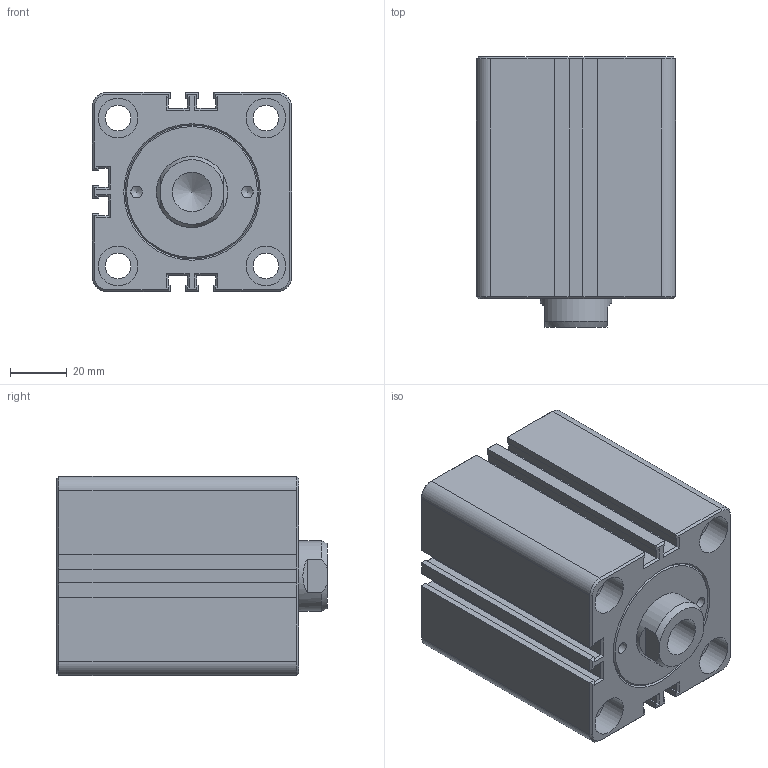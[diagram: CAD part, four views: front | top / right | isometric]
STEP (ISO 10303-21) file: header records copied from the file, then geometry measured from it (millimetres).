
FILE_DESCRIPTION(/* description */ ('Unknown'),/* implementation_level */ '2;1');
FILE_NAME(/* name */ 'HTM70-SDMB40X30N',/* time_stamp */ '2022-08-31T05:42:24+08:00',/* author */ ('Unknown'),/* organization */ ('Unknown'),/* preprocessor_version */ 'ST-DEVELOPER v16.7',/* originating_system */ 'DEX',/* authorisation */ $);
FILE_SCHEMA (('AUTOMOTIVE_DESIGN {1 0 10303 214 3 1 1}'));
Length unit declared in the file: millimetre
Products named in the file (1): HTM70-SDMB40X30N
Bounding box: 70 x 95 x 70 mm (x, y, z)
Volume: 367810.2 mm3; surface area: 53994.7 mm2
Topology: 1 solids, 1 shells, 285 faces, 663 edges, 400 vertices
Faces by surface type: plane 182, cone 40, bspline 36, cylinder 27
Full cylindrical faces by diameter (mm): 4.1 x2, 6 x3, 9 x4, 12 x2, 13 x2, 13.835 x1, 14 x8, 25 x1
Entity records: 9973 total; most frequent: CARTESIAN_POINT 1959, ORIENTED_EDGE 1218, DIRECTION 1128, EDGE_CURVE 609, LINE 402, VECTOR 402, VERTEX_POINT 386, AXIS2_PLACEMENT_3D 363
